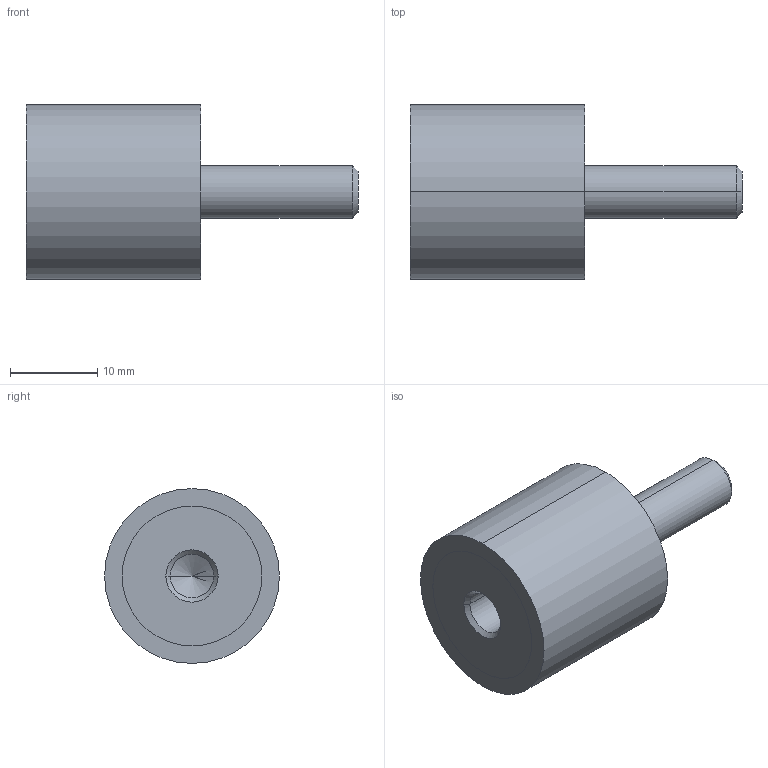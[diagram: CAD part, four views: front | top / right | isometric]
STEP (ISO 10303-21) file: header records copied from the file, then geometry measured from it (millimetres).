
FILE_DESCRIPTION (( 'STEP AP214' ), '1' );
FILE_NAME ('351-20-20-M6-ES-40.step', '2025-07-23T09:57:53', ( '' ), ( '' ), 'SwSTEP 2.0', 'SolidWorks 2022', '' );
FILE_SCHEMA (( 'AUTOMOTIVE_DESIGN' ));
Length unit declared in the file: millimetre
Products named in the file (1): 351-20-20-M6-ES-40
Bounding box: 38 x 20 x 20 mm (x, y, z)
Volume: 6636.4 mm3; surface area: 2326.1 mm2
Topology: 1 solids, 1 shells, 24 faces, 48 edges, 29 vertices
Faces by surface type: cylinder 12, cone 6, plane 6
Entity records: 740 total; most frequent: DIRECTION 124, CARTESIAN_POINT 100, ORIENTED_EDGE 92, AXIS2_PLACEMENT_3D 53, EDGE_CURVE 46, EDGE_LOOP 29, VERTEX_POINT 29, CIRCLE 28
